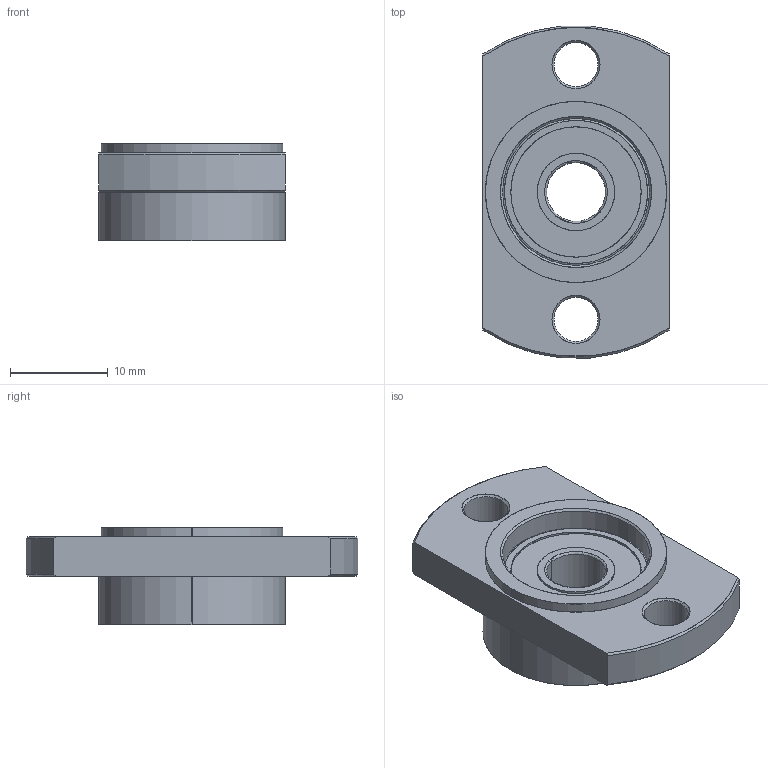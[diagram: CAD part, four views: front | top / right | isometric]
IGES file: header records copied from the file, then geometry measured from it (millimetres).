
Start section: SolidWorks IGES file using analytic representation for surfaces
Bounding box: 19 x 33.88 x 10 mm (x, y, z)
Surface area: 2812.9 mm2 (no closed solid volume)
Topology: 0 solids, 0 shells, 61 faces, 952 edges, 952 vertices
Faces by surface type: revolution 40, bspline 21
